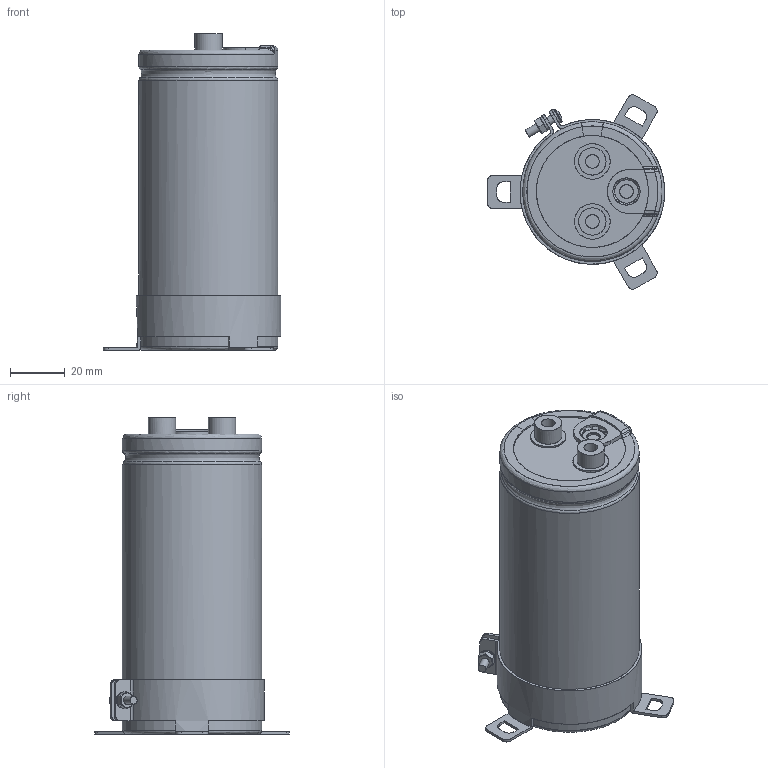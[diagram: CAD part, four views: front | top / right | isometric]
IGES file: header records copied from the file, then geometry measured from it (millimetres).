
Start section: JAMA-IS VERSION  1.0
Bounding box: 65 x 71.22 x 116 mm (x, y, z)
Surface area: 67191.6 mm2 (no closed solid volume)
Topology: 0 solids, 0 shells, 298 faces, 4625 edges, 4595 vertices
Faces by surface type: bspline 298
